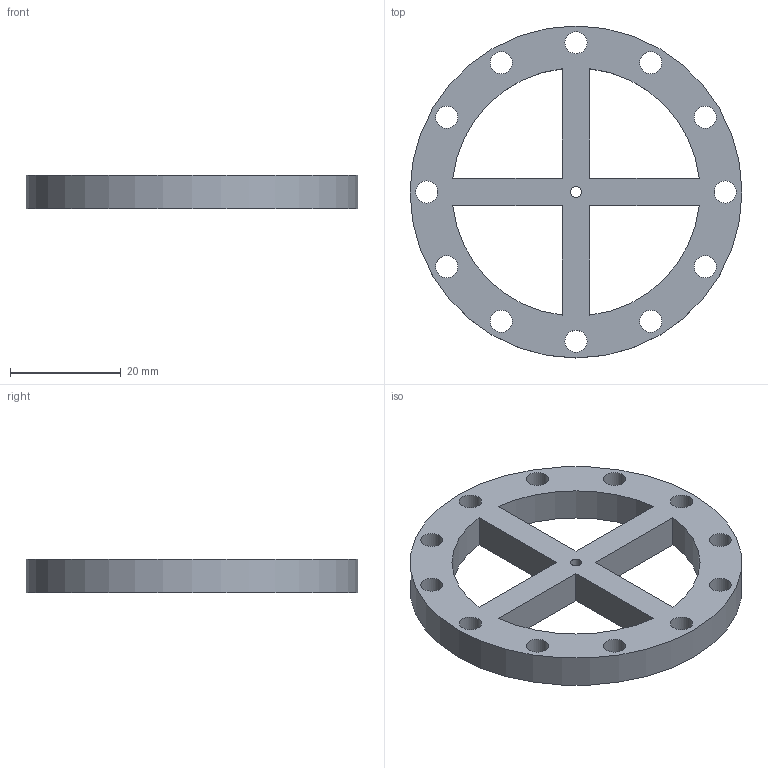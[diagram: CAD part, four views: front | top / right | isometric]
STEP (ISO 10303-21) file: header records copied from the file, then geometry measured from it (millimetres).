
FILE_DESCRIPTION(/* description */ ('STEP AP242 Edition 2','CAx-IF Rec.Pracs.---Representation and Presentation of Product Manufacturing Information (PMI)---4.0---2014-10-13','CAx-IF Rec.Pracs.---3D Tessellated Geometry---0.4---2014-09-14','2;1','CAx-IF Rec.Pracs.---User Defined Attributes---1.5---2016-08-15'),/* implementation_level */ '2;1');
FILE_NAME(/* name */ '695afeced13f1a023388940f',/* time_stamp */ '2026-01-04T23:59:10Z',/* author */ (''),/* organization */ (''),/* preprocessor_version */ 'ST-DEVELOPER v20',/* originating_system */ 'ONSHAPE BY PTC INC, 1.208',/* authorisation */ ' ');
FILE_SCHEMA (('AP242_MANAGED_MODEL_BASED_3D_ENGINEERING_MIM_LF { 1 0 10303 442 3 1 4 }'));
Length unit declared in the file: metre
Products named in the file (1): Part 1
Bounding box: 60 x 60 x 6 mm (x, y, z)
Volume: 9105 mm3; surface area: 6782.4 mm2
Topology: 1 solids, 1 shells, 28 faces, 78 edges, 52 vertices
Faces by surface type: cylinder 18, plane 10
Full cylindrical faces by diameter (mm): 2 x1, 4 x12, 60 x1
Entity records: 938 total; most frequent: DIRECTION 158, CARTESIAN_POINT 145, ORIENTED_EDGE 128, EDGE_LOOP 76, FACE_BOUND 76, AXIS2_PLACEMENT_3D 65, EDGE_CURVE 64, VERTEX_POINT 52
